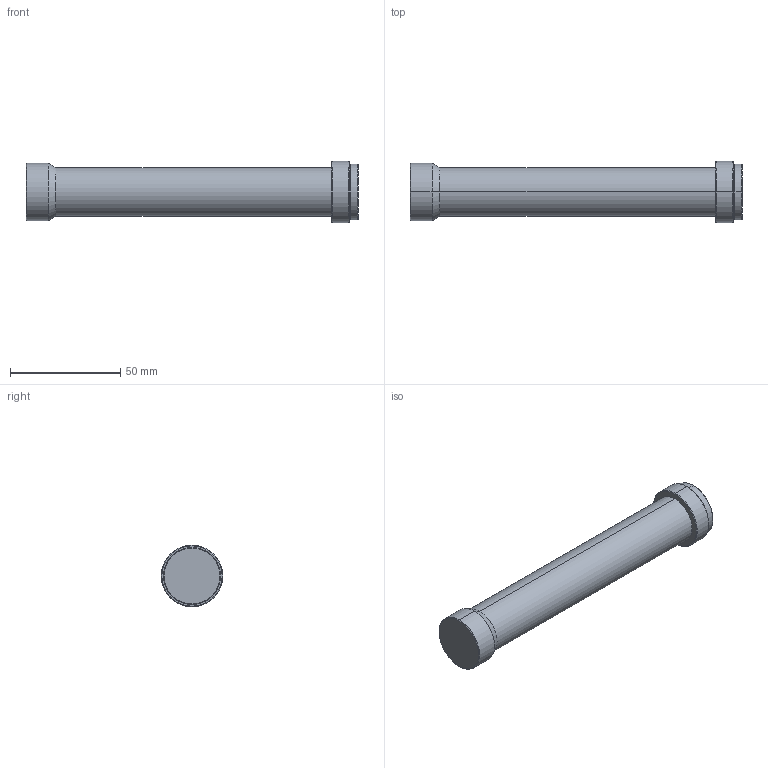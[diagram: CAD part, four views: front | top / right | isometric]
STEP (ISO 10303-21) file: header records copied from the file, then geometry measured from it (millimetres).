
FILE_DESCRIPTION (( 'STEP AP203' ), '1' );
FILE_NAME ('WWH100-65AT.STEP', '2021-03-15T08:25:38', ( 'Windows User' ), ( 'P R C' ), 'SwSTEP 2.0', 'SolidWorks 2017', '' );
FILE_SCHEMA (( 'CONFIG_CONTROL_DESIGN' ));
Length unit declared in the file: millimetre
Products named in the file (1): WWH100-65AT
Bounding box: 150.7 x 28 x 28 mm (x, y, z)
Volume: 61395.4 mm3; surface area: 12195.1 mm2
Topology: 1 solids, 1 shells, 25 faces, 48 edges, 28 vertices
Faces by surface type: cone 10, cylinder 10, plane 5
Entity records: 711 total; most frequent: DIRECTION 128, CARTESIAN_POINT 102, ORIENTED_EDGE 96, AXIS2_PLACEMENT_3D 54, EDGE_CURVE 48, EDGE_LOOP 28, CIRCLE 28, VERTEX_POINT 28
